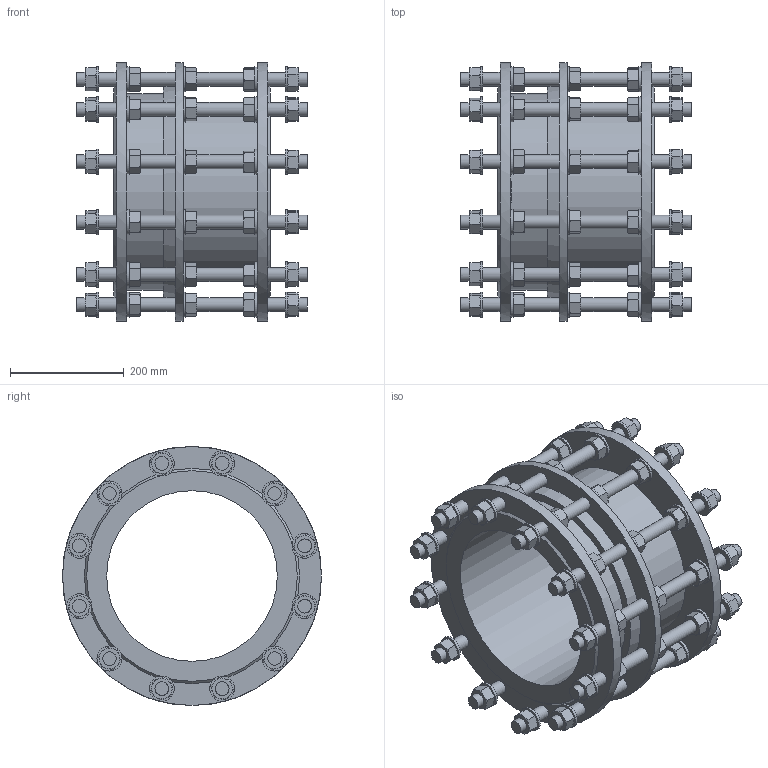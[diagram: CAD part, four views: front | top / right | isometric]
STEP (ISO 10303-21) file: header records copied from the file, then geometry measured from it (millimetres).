
FILE_DESCRIPTION (( 'STEP AP203' ), '1' );
FILE_NAME ('O_265_910_DN300_1XXXXX00_L=275_REV01.step', '2024-10-11T09:09:27', ( '' ), ( '' ), 'SwSTEP 2.0', 'SolidWorks 2022', '' );
FILE_SCHEMA (( 'CONFIG_CONTROL_DESIGN' ));
Length unit declared in the file: millimetre
Products named in the file (1): O_265_910_DN300_1XXXXX00_L=275_REV01
Bounding box: 405 x 455 x 455 mm (x, y, z)
Volume: 11315978.9 mm3; surface area: 1477429.4 mm2
Topology: 1 solids, 1 shells, 1439 faces, 3151 edges, 1893 vertices
Faces by surface type: cone 723, plane 576, cylinder 140
Full cylindrical faces by diameter (mm): 24 x72, 44 x60, 300 x1, 315 x1, 345 x1, 455 x3
Entity records: 44526 total; most frequent: CARTESIAN_POINT 16229, ORIENTED_EDGE 5826, DIRECTION 5359, EDGE_CURVE 2913, AXIS2_PLACEMENT_3D 2446, EDGE_LOOP 1809, VERTEX_POINT 1796, FACE_OUTER_BOUND 1577
